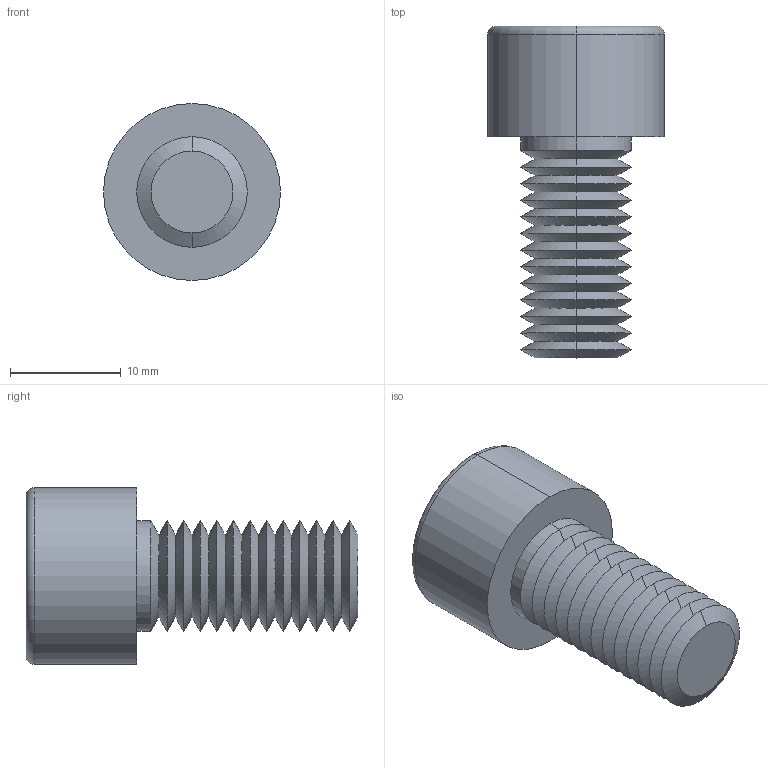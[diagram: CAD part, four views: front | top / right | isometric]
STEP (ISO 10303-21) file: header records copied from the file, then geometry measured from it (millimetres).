
FILE_DESCRIPTION (( 'STEP AP203' ), '1' );
FILE_NAME ('91N.100.0200.step', '2025-05-20T08:54:53', ( '' ), ( '' ), 'SwSTEP 2.0', 'SolidWorks 2019', '' );
FILE_SCHEMA (( 'CONFIG_CONTROL_DESIGN' ));
Length unit declared in the file: millimetre
Products named in the file (1): 91N.100.0200
Bounding box: 16 x 30 x 16 mm (x, y, z)
Volume: 2743.1 mm3; surface area: 2144 mm2
Topology: 1 solids, 1 shells, 80 faces, 159 edges, 81 vertices
Faces by surface type: cone 59, plane 15, cylinder 4, torus 2
Entity records: 2082 total; most frequent: DIRECTION 387, CARTESIAN_POINT 350, ORIENTED_EDGE 314, EDGE_CURVE 157, AXIS2_PLACEMENT_3D 156, EDGE_LOOP 82, VERTEX_POINT 81, ADVANCED_FACE 80
